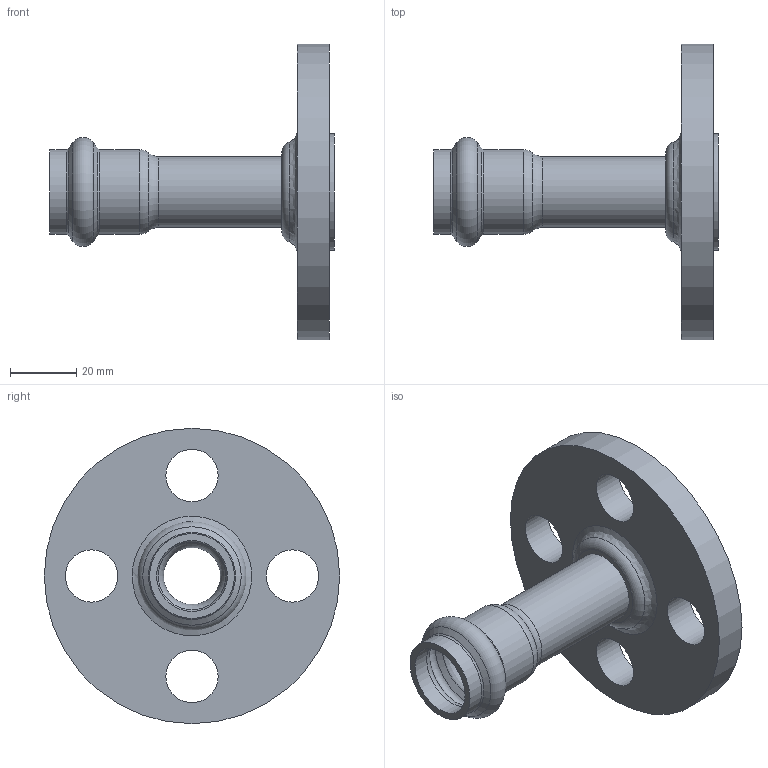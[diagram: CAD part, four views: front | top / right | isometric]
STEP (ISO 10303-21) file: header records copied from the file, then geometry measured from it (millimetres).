
FILE_DESCRIPTION(/* description */ ('VIC VAN STONE FLANGE ADAPTER STYLE P565','CAx-IF Rec.Pracs.---Representation and Presentation of Product Manufacturing Information (PMI)---4.0---2014-10-13'),/* implementation_level */ '2;1');
FILE_NAME(/* name */ 'C:\Users\Vjadhav\AppData\Roaming\Autodesk\ApplicationPlugins\Back Up\Victaulic_SS-Vic-Press-TP 304_Flange Adapter Van Stone_CL 150 RF_Style P565 (VPxFLG)\Victaulic_SS-Vic-Press-TP 304_Flange Adapter Van Stone_CL 150 RF_Style P565 (VPxFLG)_0.5 (15).stp',/* time_stamp */ '2020-08-12T17:23:05+06:00',/* author */ ('cgray'),/* organization */ ('Victaulic'),/* preprocessor_version */ 'ST-DEVELOPER v17.2',/* originating_system */ 'Autodesk Inventor 2019',/* authorisation */ '');
FILE_SCHEMA (('AP242_MANAGED_MODEL_BASED_3D_ENGINEERING_MIM_LF { 1 0 10303 442 1 1 4 }'));
Length unit declared in the file: inch
Products named in the file (1): P565-0.5
Bounding box: 85.6 x 88.9 x 88.9 mm (x, y, z)
Volume: 64077.3 mm3; surface area: 26288.5 mm2
Topology: 1 solids, 1 shells, 33 faces, 113 edges, 85 vertices
Faces by surface type: cylinder 12, torus 11, plane 5, cone 4, bspline 1
Full cylindrical faces by diameter (mm): 15.748 x4, 17.12 x1, 21.336 x3, 25.552 x2, 35.052 x1, 88.9 x1
Entity records: 1635 total; most frequent: CARTESIAN_POINT 375, DIRECTION 296, ORIENTED_EDGE 226, AXIS2_PLACEMENT_3D 140, EDGE_CURVE 113, CIRCLE 94, VERTEX_POINT 85, EDGE_LOOP 46
